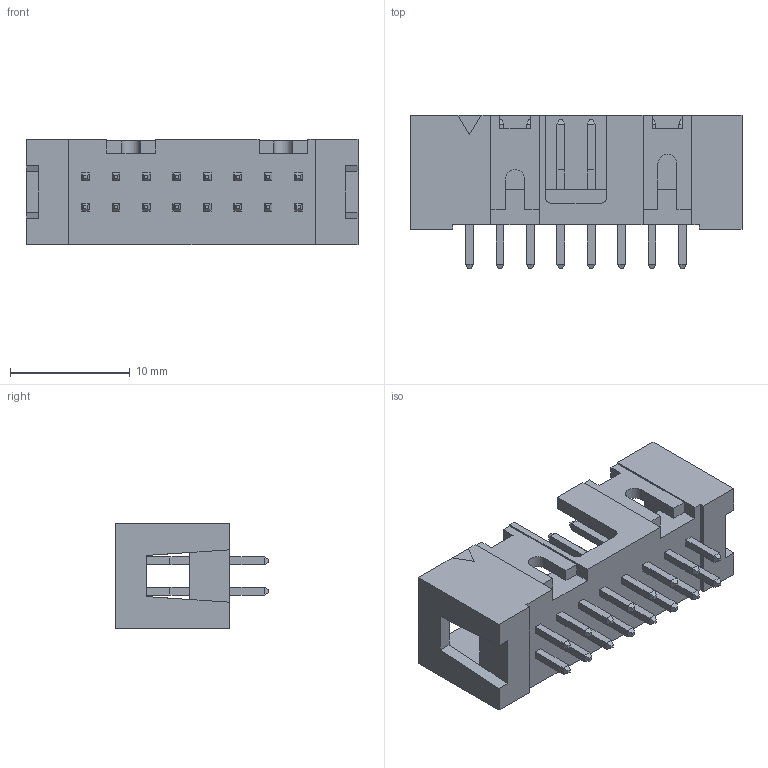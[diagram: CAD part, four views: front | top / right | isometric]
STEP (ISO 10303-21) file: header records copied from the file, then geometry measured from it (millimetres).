
FILE_DESCRIPTION (( 'STEP AP214' ), '1' );
FILE_NAME ('52601-G16-4LF.STEP', '2023-07-12T11:27:04', ( '' ), ( '' ), 'SwSTEP 2.0', 'SolidWorks 2017', '' );
FILE_SCHEMA (( 'AUTOMOTIVE_DESIGN' ));
Length unit declared in the file: millimetre
Products named in the file (2): 52601-G16-4LF; 52601-xxx-xxxxxLF (Additiona)_52601-G16-4LF
Assembly tree (1 placements, depth 2):
  52601-G16-4LF
    52601-xxx-xxxxxLF (Additiona)_52601-G16-4LF
Bounding box: 27.69 x 12.83 x 8.76 mm (x, y, z)
Volume: 1127 mm3; surface area: 1914.6 mm2
Topology: 50 solids, 50 shells, 482 faces, 1034 edges, 644 vertices
Faces by surface type: plane 478, cylinder 4
Entity records: 15587 total; most frequent: CARTESIAN_POINT 2164, ORIENTED_EDGE 2068, DIRECTION 2014, EDGE_CURVE 1034, LINE 1026, VECTOR 1026, VERTEX_POINT 644, AXIS2_PLACEMENT_3D 494
